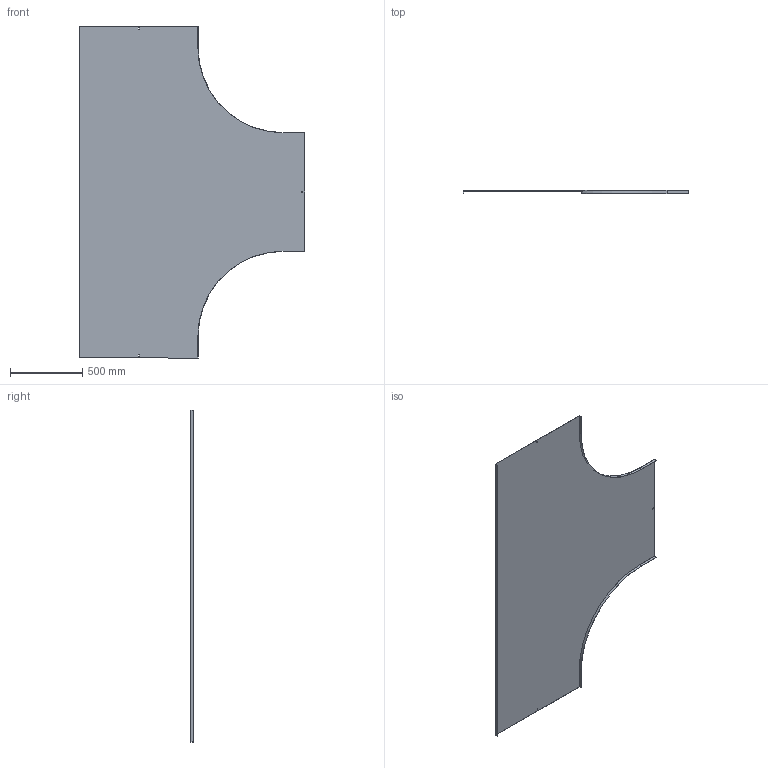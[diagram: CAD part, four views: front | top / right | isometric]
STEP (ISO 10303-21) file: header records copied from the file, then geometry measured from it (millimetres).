
FILE_DESCRIPTION (( 'STEP AP214' ), '1' );
FILE_NAME ('15N6P800.step', '2025-02-21T13:56:45', ( '' ), ( '' ), 'SwSTEP 2.0', 'SolidWorks 2023', '' );
FILE_SCHEMA (( 'AUTOMOTIVE_DESIGN' ));
Length unit declared in the file: millimetre
Products named in the file (1): 15N6P800
Bounding box: 1561.5 x 20 x 2300 mm (x, y, z)
Volume: 4105581 mm3; surface area: 5485240.7 mm2
Topology: 1 solids, 1 shells, 34 faces, 96 edges, 64 vertices
Faces by surface type: plane 30, cylinder 4
Entity records: 1123 total; most frequent: CARTESIAN_POINT 195, ORIENTED_EDGE 192, DIRECTION 174, EDGE_CURVE 96, VECTOR 88, LINE 88, VERTEX_POINT 64, AXIS2_PLACEMENT_3D 43
